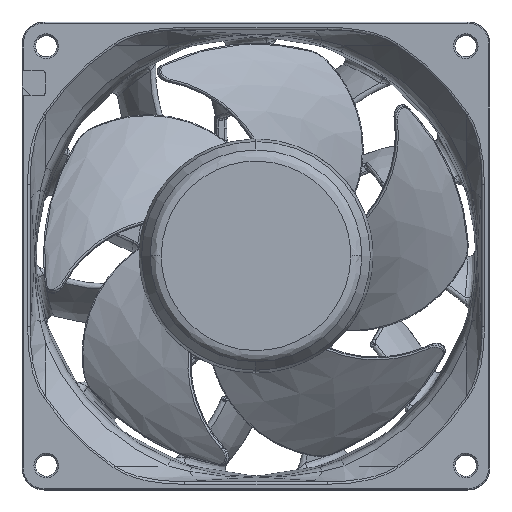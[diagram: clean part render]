
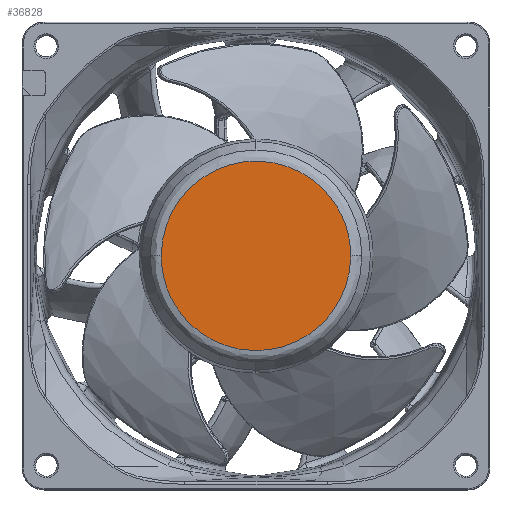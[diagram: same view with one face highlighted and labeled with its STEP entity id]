
A CAD part, top view. The second image highlights one B-rep face of the part: STEP entity #36828.
In plain terms, the highlighted planar face has unit normal (0, 0, 1).
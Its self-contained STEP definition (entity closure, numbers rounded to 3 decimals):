
#2040 = CARTESIAN_POINT ( 'NONE',  ( 18.632, 0., 36. ) ) ;
#4030 = EDGE_CURVE ( 'NONE', #52239, #32361, #29304, .T. ) ;
#7846 = CARTESIAN_POINT ( 'NONE',  ( -18.632, -37.263, 36. ) ) ;
#8664 = AXIS2_PLACEMENT_3D ( 'NONE', #2040, #46528, #18217 ) ;
#8934 = CARTESIAN_POINT ( 'NONE',  ( 18.632, 0., 36. ) ) ;
#9407 = CARTESIAN_POINT ( 'NONE',  ( 18.632, 37.263, 36. ) ) ;
#12363 = CARTESIAN_POINT ( 'NONE',  ( -18.632, 0., 36. ) ) ;
#18217 = DIRECTION ( 'NONE',  ( -1., 0., 0. ) ) ;
#18425 = CARTESIAN_POINT ( 'NONE',  ( -18.632, 37.263, 36. ) ) ;
#18613 = CARTESIAN_POINT ( 'NONE',  ( -18.632, 0., 36. ) ) ;
#22190 = FACE_OUTER_BOUND ( 'NONE', #48556, .T. ) ;
#23867 =( BOUNDED_CURVE ( )  B_SPLINE_CURVE ( 3, ( #45932, #18425, #9407, #34551 ),
 .UNSPECIFIED., .F., .F. ) 
 B_SPLINE_CURVE_WITH_KNOTS ( ( 4, 4 ),
 ( 0., 1. ),
 .UNSPECIFIED. ) 
 CURVE ( )  GEOMETRIC_REPRESENTATION_ITEM ( )  RATIONAL_B_SPLINE_CURVE ( ( 1., 0.333, 0.333, 1. ) ) 
 REPRESENTATION_ITEM ( '' )  );
#26246 = ORIENTED_EDGE ( 'NONE', *, *, #31982, .F. ) ;
#29304 =( BOUNDED_CURVE ( )  B_SPLINE_CURVE ( 3, ( #39894, #36460, #7846, #12363 ),
 .UNSPECIFIED., .F., .F. ) 
 B_SPLINE_CURVE_WITH_KNOTS ( ( 4, 4 ),
 ( 0., 1. ),
 .UNSPECIFIED. ) 
 CURVE ( )  GEOMETRIC_REPRESENTATION_ITEM ( )  RATIONAL_B_SPLINE_CURVE ( ( 1., 0.333, 0.333, 1. ) ) 
 REPRESENTATION_ITEM ( '' )  );
#31982 = EDGE_CURVE ( 'NONE', #32361, #52239, #23867, .T. ) ;
#32361 = VERTEX_POINT ( 'NONE', #18613 ) ;
#34551 = CARTESIAN_POINT ( 'NONE',  ( 18.632, 0., 36. ) ) ;
#36460 = CARTESIAN_POINT ( 'NONE',  ( 18.632, -37.263, 36. ) ) ;
#36828 = ADVANCED_FACE ( 'NONE', ( #22190 ), #39373, .F. ) ;
#39373 = PLANE ( 'NONE',  #8664 ) ;
#39894 = CARTESIAN_POINT ( 'NONE',  ( 18.632, 0., 36. ) ) ;
#45932 = CARTESIAN_POINT ( 'NONE',  ( -18.632, 0., 36. ) ) ;
#46528 = DIRECTION ( 'NONE',  ( 0., 0., -1. ) ) ;
#48556 = EDGE_LOOP ( 'NONE', ( #51439, #26246 ) ) ;
#51439 = ORIENTED_EDGE ( 'NONE', *, *, #4030, .F. ) ;
#52239 = VERTEX_POINT ( 'NONE', #8934 ) ;
